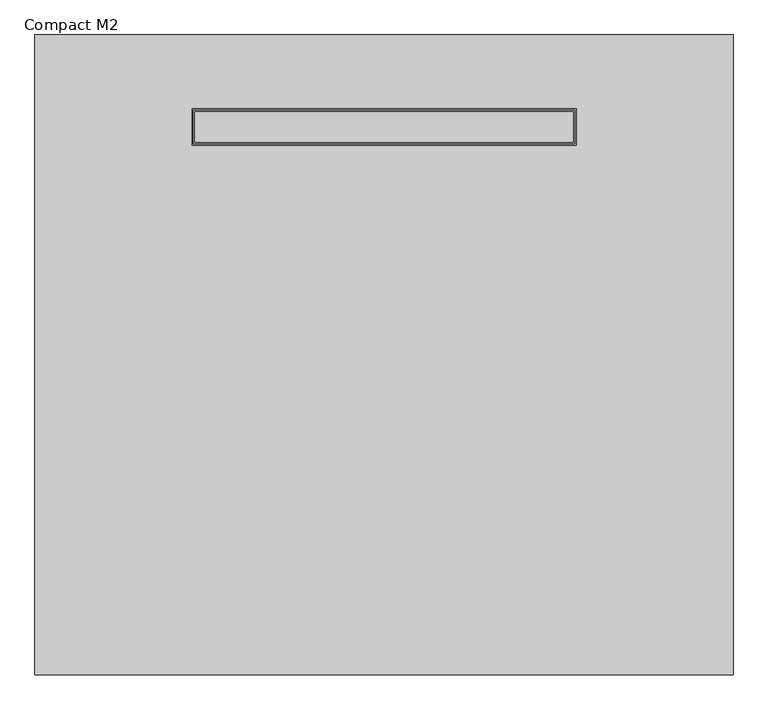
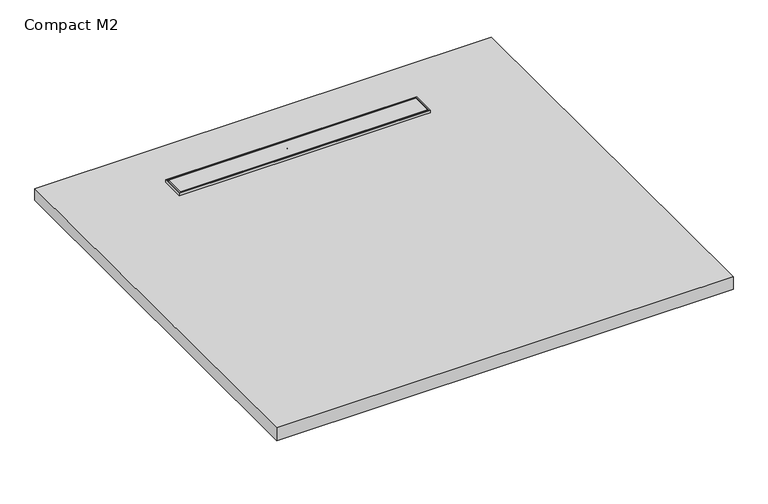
"""IFC4 building model written with IfcOpenShell, lengths in millimetres: sanitary terminal geometry, NLRS_PF_52_UN_Showerboard Compact M2_Easydrain : Compact M2."""

from ifc_helpers import new_model, si_unit, point, frame, frame_2d, origin, place, context, project, spatial, polyline, circle_curve, trimmed, segment, composite_curve, outline, extrude, source, transform, mapped, element, save


def compact_m2_07d69076(model_context):
    return source(origin(), model_context, "Body", "SweptSolid", [
        extrude(outline(composite_curve([segment(trimmed(circle_curve(frame_2d((-92.0, 0.0)), 25.0), [point((-117.0, 0.0))], [point((-67.0, 0.0))], False, "CARTESIAN"), True, "CONTINUOUS"), segment(trimmed(circle_curve(frame_2d((-92.0, 0.0)), 25.0), [point((-67.0, 0.0))], [point((-117.0, 0.0))], False, "CARTESIAN"), True, "CONTINUOUS")], self_intersect=False)), frame((0.0, -189.0, 0.0), z_axis=(0.0, 1.0, 0.0), x_axis=(0.0, 0.0, 1.0)), (0.0, 0.0, 1.0), 108.0),
        extrude(outline(composite_curve([segment(trimmed(circle_curve(frame_2d((22.3675767, -114.3675767)), 4.6324233), [point((27.0, -114.3675767))], [point((22.3675767, -119.0))], False, "CARTESIAN"), True, "CONTINUOUS"), segment(polyline([(22.3675767, -119.0), (-93.4993465, -119.0)]), True, "CONTINUOUS"), segment(trimmed(circle_curve(frame_2d((-78.5994856, -113.1878307)), 15.9933476), [point((-93.4993465, -119.0))], [point((-94.552105, -114.3284894))], False, "CARTESIAN"), True, "CONTINUOUS"), segment(polyline([(-94.552105, -114.3284894), (-101.0242264, -75.5447741)]), True, "CONTINUOUS"), segment(trimmed(circle_curve(frame_2d((-129.3084976, -75.5447741)), 28.2842712), [point((-101.0242264, -75.5447741))], [point((-129.3084976, -103.8290454))], False, "CARTESIAN"), True, "CONTINUOUS"), segment(trimmed(circle_curve(frame_2d((-119.8439198, -79.2956944)), 26.2956944), [point((-129.3084976, -103.8290454))], [point((-119.8439198, -53.0))], False, "CARTESIAN"), True, "CONTINUOUS"), segment(polyline([(-119.8439198, -53.0), (-84.5778291, -53.0)]), True, "CONTINUOUS"), segment(trimmed(circle_curve(frame_2d((-89.0794932, -58.731688)), 7.2881566), [point((-84.5778291, -53.0))], [point((-83.3799699, -54.189369))], False, "CARTESIAN"), True, "CONTINUOUS"), segment(polyline([(-83.3799699, -54.189369), (-74.2149251, -87.0)]), True, "CONTINUOUS"), segment(trimmed(circle_curve(frame_2d((-67.2657703, -84.6709247)), 7.3290753), [point((-74.2149251, -87.0))], [point((-67.2657703, -92.0))], True, "CARTESIAN"), True, "CONTINUOUS"), segment(polyline([(-67.2657703, -92.0), (21.6324233, -92.0)]), True, "CONTINUOUS"), segment(trimmed(circle_curve(frame_2d((21.6324233, -97.3675767)), 5.3675767), [point((21.6324233, -92.0))], [point((27.0, -97.3675767))], False, "CARTESIAN"), True, "CONTINUOUS"), segment(polyline([(27.0, -97.3675767), (27.0, -114.3675767)]), True, "CONTINUOUS")], self_intersect=False)), frame((-60.0, 0.0, 0.0), z_axis=(1.0, 0.0, 0.0), x_axis=(0.0, 1.0, 0.0)), (0.0, 0.0, 1.0), 120.0),
        extrude(outline(composite_curve([segment(trimmed(circle_curve(frame_2d((0.0, -21.0)), 40.0), [point((-40.0, -21.0))], [point((40.0, -21.0))], False, "CARTESIAN"), True, "CONTINUOUS"), segment(trimmed(circle_curve(frame_2d((0.0, -21.0)), 40.0), [point((40.0, -21.0))], [point((-40.0, -21.0))], False, "CARTESIAN"), True, "CONTINUOUS")], self_intersect=False)), frame((0.0, 0.0, -92.0), z_axis=(0.0, 0.0, 1.0), x_axis=(1.0, 0.0, 0.0)), (0.0, 0.0, 1.0), 50.0),
        extrude(outline(composite_curve([segment(trimmed(circle_curve(frame_2d((0.0, -21.0)), 25.0), [point((-25.0, -21.0))], [point((25.0, -21.0))], False, "CARTESIAN"), True, "CONTINUOUS"), segment(trimmed(circle_curve(frame_2d((0.0, -21.0)), 25.0), [point((25.0, -21.0))], [point((-25.0, -21.0))], False, "CARTESIAN"), True, "CONTINUOUS")], self_intersect=False)), frame((0.0, 0.0, -42.0), z_axis=(0.0, 0.0, 1.0), x_axis=(1.0, 0.0, 0.0)), (0.0, 0.0, 1.0), 13.0),
        extrude(outline(polyline([(330.0, 10.0), (330.0, -52.0), (-330.0, -52.0), (-330.0, 10.0), (330.0, 10.0)]), holes=[polyline([(327.5, 7.5), (-327.5, 7.5), (-327.5, -49.5), (327.5, -49.5), (327.5, 7.5)])]), frame((0.0, 0.0, -7.0), z_axis=(0.0, 0.0, 1.0), x_axis=(1.0, 0.0, 0.0)), (0.0, 0.0, 1.0), 7.0),
        extrude(outline(polyline([(325.0, 5.0), (325.0, -47.0), (-325.0, -47.0), (-325.0, 5.0), (325.0, 5.0)])), frame((0.0, 0.0, -7.0), z_axis=(0.0, 0.0, 1.0), x_axis=(1.0, 0.0, 0.0)), (0.0, 0.0, 1.0), 7.0),
        extrude(outline(polyline([(137.3, -7.0), (137.3, -40.0), (-962.7, -40.0), (-962.7, -5.0), (137.3, -7.0)])), frame((-600.0, 0.0, 0.0), z_axis=(1.0, 0.0, 0.0), x_axis=(0.0, 1.0, 0.0)), (0.0, 0.0, 1.0), 1200.0),
        extrude(outline(composite_curve([segment(trimmed(circle_curve(frame_2d((0.0, -21.0)), 25.0), [point((-25.0, -21.0))], [point((25.0, -21.0))], False, "CARTESIAN"), True, "CONTINUOUS"), segment(trimmed(circle_curve(frame_2d((0.0, -21.0)), 25.0), [point((25.0, -21.0))], [point((-25.0, -21.0))], False, "CARTESIAN"), True, "CONTINUOUS")], self_intersect=False)), frame((0.0, 0.0, -31.5), z_axis=(0.0, 0.0, 1.0), x_axis=(1.0, 0.0, 0.0)), (0.0, 0.0, 1.0), 24.5),
    ])


if __name__ == "__main__":
    model = new_model("IFC4")
    model_context = context("Model", 3, world=origin())
    ifc_project = project(units=[si_unit("LENGTHUNIT", "METRE", prefix="MILLI")], contexts=[model_context])
    site = spatial("IfcSite", under=ifc_project)
    building = spatial("IfcBuilding", under=site)
    placement = place(None, origin())
    compact_m2_shape = compact_m2_07d69076(model_context)
    element("IfcSanitaryTerminal", 1, ObjectType="NLRS_PF_52_UN_Showerboard Compact M2_Easydrain : Compact M2", at=placement, inside=building, context=model_context, shape_type="MappedRepresentation", body=[
        mapped(compact_m2_shape, transform((0.0, 0.0, 0.0), x_axis=(1.0, 0.0, 0.0), y_axis=(0.0, 1.0, 0.0), z_axis=(0.0, 0.0, 1.0))),
    ])
    save(model, "model.ifc")
